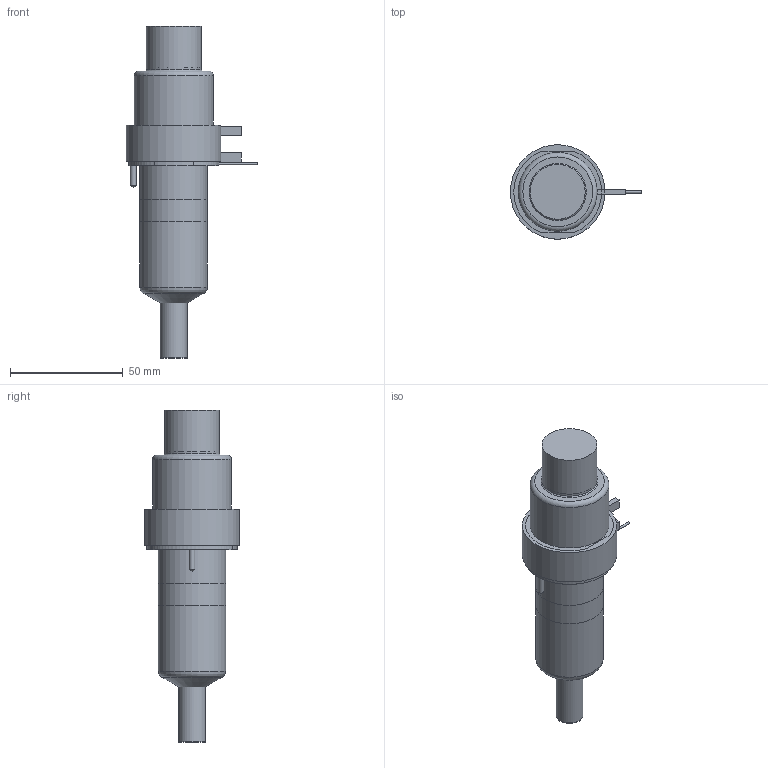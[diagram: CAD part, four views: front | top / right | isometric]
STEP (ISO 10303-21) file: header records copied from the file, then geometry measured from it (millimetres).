
FILE_DESCRIPTION(/* description */ (''),/* implementation_level */ '2;1');
FILE_NAME(/* name */ 'SXYCN16065P7F_250C_a',/* time_stamp */ '2016-03-04T10:26:27+13:00',/* author */ (''),/* organization */ (''),/* preprocessor_version */ 'ST-DEVELOPER v9',/* originating_system */ 'UGS - NX 4.0',/* authorisation */ '');
FILE_SCHEMA (('CONFIG_CONTROL_DESIGN'));
Length unit declared in the file: millimetre
Products named in the file (1): mattD74Dhdnt
Bounding box: 58.25 x 42 x 147.5 mm (x, y, z)
Volume: 178640.2 mm3; surface area: 32252.2 mm2
Topology: 7 solids, 7 shells, 91 faces, 175 edges, 112 vertices
Faces by surface type: plane 45, cylinder 29, torus 8, cone 7, bspline 1, sphere 1
Full cylindrical faces by diameter (mm): 1 x3, 1.8 x1, 2.5 x2, 5 x1, 7 x1, 11.61 x1, 11.995 x2, 14.8 x1, 24 x1, 24.4 x1, 25.4 x1, 30 x2, 31.8 x1, 35 x1, 40 x1, 42 x1
Entity records: 2230 total; most frequent: CARTESIAN_POINT 435, DIRECTION 378, ORIENTED_EDGE 266, AXIS2_PLACEMENT_3D 164, EDGE_LOOP 140, EDGE_CURVE 133, VERTEX_POINT 106, ADVANCED_FACE 91
